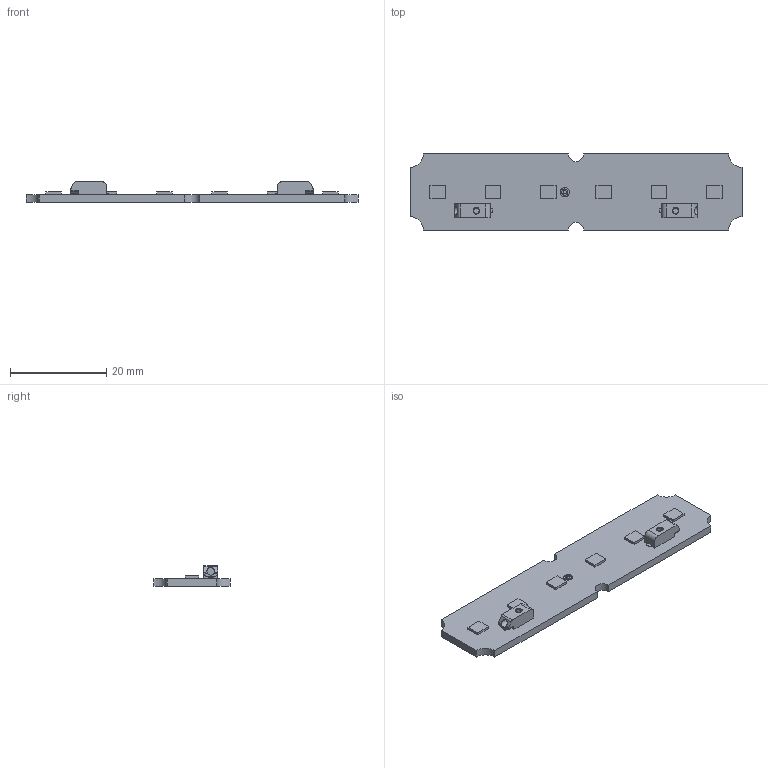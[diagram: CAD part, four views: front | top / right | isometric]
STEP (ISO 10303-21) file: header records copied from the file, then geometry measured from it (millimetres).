
FILE_DESCRIPTION((''),'2;1');
FILE_NAME('16208816_LLE-G5-16X70-325LM','2019-01-15T13:45:28',('bernhard.fink'),(''),'CREO PARAMETRIC BY PTC INC, 2017380','CREO PARAMETRIC BY PTC INC, 2017380','');
FILE_SCHEMA(('AUTOMOTIVE_DESIGN { 1 0 10303 214 1 1 1 1 }'));
Length unit declared in the file: millimetre
Products named in the file (1): 16208816_LLE-G5-16X70-325LM
Bounding box: 69 x 15.8 x 4.35 mm (x, y, z)
Volume: 1868.1 mm3; surface area: 2752.7 mm2
Topology: 7 solids, 7 shells, 161 faces, 410 edges, 272 vertices
Faces by surface type: plane 107, cylinder 50, torus 4
Entity records: 7787 total; most frequent: CARTESIAN_POINT 951, ORIENTED_EDGE 820, DIRECTION 812, PRESENTATION_STYLE_ASSIGNMENT 578, STYLED_ITEM 417, CURVE_STYLE 410, EDGE_CURVE 410, VECTOR 294
